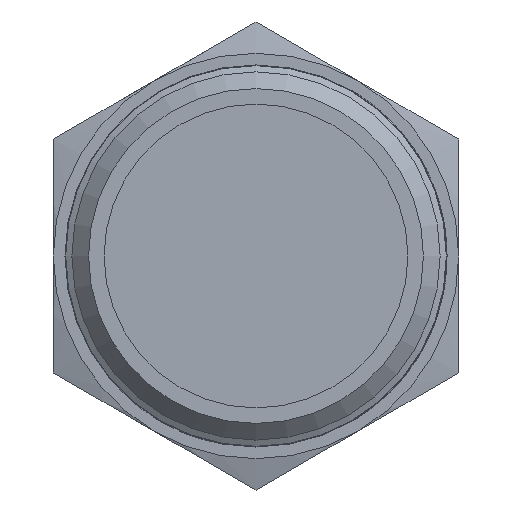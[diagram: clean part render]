
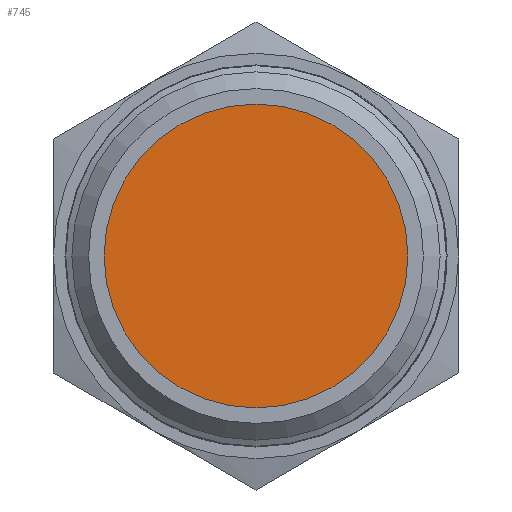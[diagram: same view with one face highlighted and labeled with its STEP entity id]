
A CAD part, left-side view. The second image highlights one B-rep face of the part: STEP entity #745.
In plain terms, the highlighted planar face has unit normal (-1, 0, 0).
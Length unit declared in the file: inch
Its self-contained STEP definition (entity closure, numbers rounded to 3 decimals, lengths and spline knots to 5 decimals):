
#745 = ADVANCED_FACE( '', ( #1657 ), #1658, .T. );
#1657 = FACE_OUTER_BOUND( '', #3504, .T. );
#1658 = PLANE( '', #3505 );
#3504 = EDGE_LOOP( '', ( #5780 ) );
#3505 = AXIS2_PLACEMENT_3D( '', #5781, #5782, #5783 );
#5780 = ORIENTED_EDGE( '', *, *, #7324, .T. );
#5781 = CARTESIAN_POINT( '', ( 0.25, 0., 0.5155 ) );
#5782 = DIRECTION( '', ( -1., 0., 0. ) );
#5783 = DIRECTION( '', ( 0., 0., 1. ) );
#7324 = EDGE_CURVE( '', #8742, #8742, #8743, .T. );
#8742 = VERTEX_POINT( '', #11737 );
#8743 = CIRCLE( '', #11738, 0.5155 );
#11737 = CARTESIAN_POINT( '', ( 0.25, 0., 0.5155 ) );
#11738 = AXIS2_PLACEMENT_3D( '', #12374, #12375, #12376 );
#12374 = CARTESIAN_POINT( '', ( 0.25, 0., 0. ) );
#12375 = DIRECTION( '', ( -1., 0., 0. ) );
#12376 = DIRECTION( '', ( 0., 0., 1. ) );
